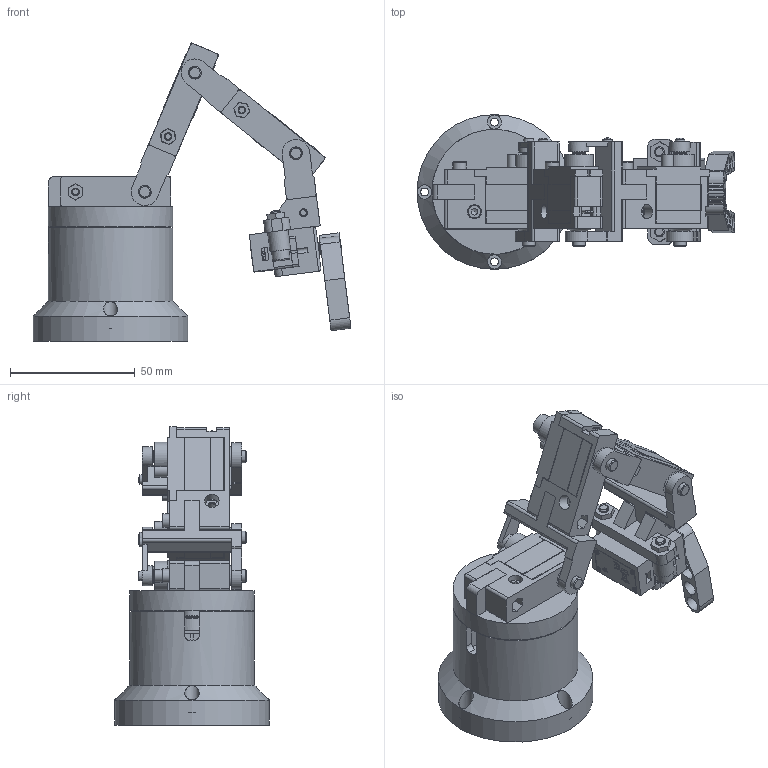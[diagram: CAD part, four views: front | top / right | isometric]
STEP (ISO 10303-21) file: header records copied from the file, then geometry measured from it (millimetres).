
FILE_DESCRIPTION(/* description */ (''),/* implementation_level */ '2;1');
FILE_NAME(/* name */ 'Assieme_robot_mg90s_verticale.stp',/* time_stamp */ '2026-03-25T11:53:00+01:00',/* author */ ('Ryzen5700u'),/* organization */ (''),/* preprocessor_version */ 'ST-DEVELOPER v20',/* originating_system */ 'Autodesk Inventor 2025',/* authorisation */ '');
FILE_SCHEMA (('AUTOMOTIVE_DESIGN { 1 0 10303 214 3 1 1 }'));
Length unit declared in the file: millimetre
Products named in the file (23): Assieme_robot_mg90s_2; Assieme_mg90s_perno; Assieme_mg90s_perno_1; base_ruota; Assieme_mg90s_perno_2; MG90_ldb; blocco_mg90s; MG90S ARM; braccio_mobile_mg90s; base; Assieme_pinza_m5; Ingranaggio cilindrico11_MIR; Ingranaggio cilindrico11; SG90 - Micro Servo 9g - Tower Pro.1_Pea; corpo_m5; AS 1420 - 1973 - M3 x 6; blocco_pinza_verticale; AS 1420 - 1973 - M4 x 16; AS 1420 - 1973 - M3 x 20; AS 1474 - M4; AS 1474 - M3; ISO 7049 - ST2,2 x 6,5 - C - H; Vite a testa cilindrica incassata esalobulare ISO 14580 - M2x8-4.8
Assembly tree (42 placements, depth 3):
  Assieme_robot_mg90s_2
    Assieme_mg90s_perno
      MG90_ldb
      blocco_mg90s
      MG90S ARM
      braccio_mobile_mg90s
    Assieme_mg90s_perno_1
      MG90_ldb
      blocco_mg90s
      MG90S ARM
      braccio_mobile_mg90s
    base_ruota
    MG90_ldb
    MG90S ARM
    Assieme_mg90s_perno_2
      MG90_ldb
      blocco_mg90s
      MG90S ARM
      braccio_mobile_mg90s
    base
    Assieme_pinza_m5
      Ingranaggio cilindrico11_MIR
      Ingranaggio cilindrico11
      SG90 - Micro Servo 9g - Tower Pro.1_Pea
      corpo_m5
      AS 1420 - 1973 - M3 x 6
      blocco_pinza_verticale
    AS 1420 - 1973 - M3 x 20  x5
    AS 1420 - 1973 - M4 x 16  x2
    AS 1474 - M4  x2
    AS 1474 - M3  x3
    ISO 7049 - ST2,2 x 6,5 - C - H  x3
    Vite a testa cilindrica incassata esalobulare ISO 14580 - M2x8-4.8
Bounding box: 127.27 x 62 x 119.46 mm (x, y, z)
Volume: 151820.2 mm3; surface area: 76687.4 mm2
Topology: 50 solids, 50 shells, 2950 faces, 8744 edges, 6058 vertices
Faces by surface type: plane 2003, cylinder 767, cone 69, torus 57, bspline 49, sphere 5
Full cylindrical faces by diameter (mm): 0.2 x1, 0.5 x1, 1 x3, 1.167 x12, 1.6 x2, 1.8 x4, 2 x21, 2.2 x7, 2.4 x3, 2.459 x3, 2.5 x7, 3 x6, 3.2 x22, 3.242 x2, 4 x2, 4.8 x2, 5 x7, 5.1 x3, 5.5 x6, 5.7 x7, 6 x7, 7 x2, 8.2 x1, 50 x2, 62 x1
Entity records: 61530 total; most frequent: CARTESIAN_POINT 18201, ORIENTED_EDGE 9328, DIRECTION 7995, EDGE_CURVE 4664, VERTEX_POINT 3351, LINE 2993, VECTOR 2993, AXIS2_PLACEMENT_3D 2501
